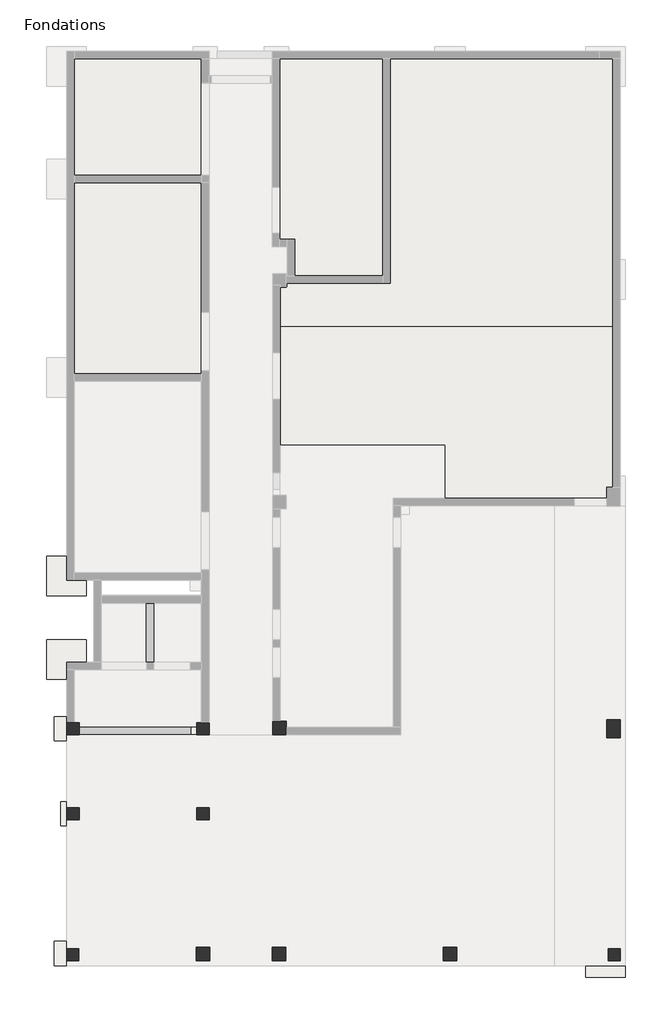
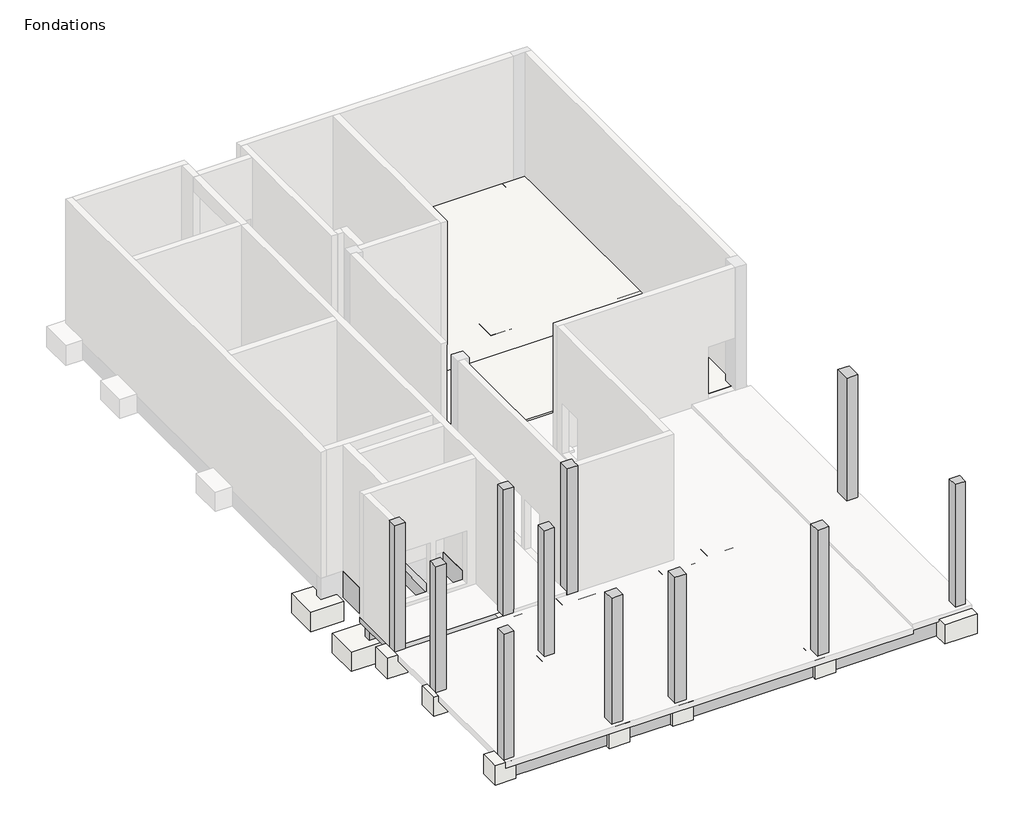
# One storey, part 2 of 3: 21 slabs, 16 beams, 11 columns.
"""IFC4 building model written with IfcOpenShell, lengths in millimetres."""

from ifc_helpers import new_model, si_unit, frame, origin, place, context, project, spatial, polyline, outline, extrude, faceted_brep, transform, mapped, element, save
from components import m_base_rectangulaire_80_x_80_x_80_cm_704a9384

model = new_model("IFC4")

# Units and contexts
model_context = context("Model", 3, world=origin())
ifc_project = project(units=[si_unit("LENGTHUNIT", "METRE", prefix="MILLI")], contexts=[model_context])

# Site, building, storey
site = spatial("IfcSite", under=ifc_project)
building = spatial("IfcBuilding", under=site)
storey = spatial("IfcBuildingStorey", under=building, Name="Fondations", Elevation=-160.0)

# Beams
placement = place(None, origin())
element("IfcBeam", 1, ObjectType="Béton - Poutre rectangulaire : LG 20 x 50 cm", at=placement, inside=storey, context=model_context, shape_type="Brep", body=[
    faceted_brep([(-14262.7042431, -1485.1222782, -160.0), (-14262.7042431, -3275.1222782, -160.0), (-14262.7042431, -3275.1222782, -360.0), (-14262.7042431, -1485.1222782, -360.0), (-14462.7042431, -3275.1222782, -360.0), (-14462.7042431, -1485.1222782, -360.0), (-14462.7042431, -3275.1222782, -160.0), (-14462.7042431, -1735.1222782, -160.0), (-14462.7042431, -1485.1222782, -160.0)], [[[0, 1, 2, 3]], [[2, 4, 5, 3]], [[4, 6, 7, 8, 5]], [[2, 1, 6, 4]], [[3, 5, 8, 0]], [[0, 8, 7, 6, 1]]]),
])
element("IfcBeam", 2, ObjectType="Béton - Poutre rectangulaire : LG 20 x 94 cm", at=placement, inside=storey, context=model_context, shape_type="Brep", body=[
    faceted_brep([(-9582.7042431, -3875.1222782, -960.0), (-10032.7042431, -3875.1222782, -960.0), (-10032.7042431, -3875.1222782, -1100.0), (-7357.7042431, -3875.1222782, -1100.0), (-7357.7042431, -3875.1222782, -960.0), (-8107.7042431, -3875.1222782, -960.0), (-8107.7042431, -3875.1222782, -405.0), (-8107.7042431, -3875.1222782, -215.0), (-9582.7042431, -3875.1222782, -215.0), (-9582.7042431, -3875.1222782, -405.0), (-10032.7042431, -3675.1222782, -1100.0), (-7357.7042431, -3675.1222782, -1100.0), (-10032.7042431, -3675.1222782, -960.0), (-9582.7042431, -3675.1222782, -960.0), (-9582.7042431, -3675.1222782, -215.0), (-8107.7042431, -3675.1222782, -215.0), (-8107.7042431, -3675.1222782, -960.0), (-7357.7042431, -3675.1222782, -960.0)], [[[0, 1, 2, 3, 4, 5, 6, 7, 8, 9]], [[2, 10, 11, 3]], [[12, 13, 14, 15, 16, 17, 11, 10]], [[0, 13, 12, 1]], [[13, 0, 9, 8, 14]], [[16, 5, 4, 17]], [[5, 16, 15, 7, 6]], [[10, 2, 1, 12]], [[3, 11, 17, 4]], [[8, 7, 15, 14]]]),
])
element("IfcBeam", 3, ObjectType="Béton - Poutre rectangulaire : LG 25 x 109 cm", at=placement, inside=storey, context=model_context, shape_type="Brep", body=[
    faceted_brep([(-14250.0042431, -1735.1222782, -160.0), (-14250.0042431, -1485.1222782, -160.0), (-14250.0042431, -1485.1222782, -1050.0), (-14250.0042431, -1735.1222782, -1050.0), (-10032.7042431, -1735.1222782, -160.0), (-9782.7042431, -1735.1222782, -160.0), (-9782.7042431, -1610.1222782, -160.0), (-10032.7042431, -1610.1222782, -160.0), (-10032.7042431, -1485.1222782, -160.0), (-13332.7042431, -1485.1222782, -160.0), (-13582.7042431, -1485.1222782, -160.0), (-13832.7042431, -1485.1222782, -1050.0), (-10032.7042431, -1485.1222782, -1050.0), (-10307.7042431, -1485.1222782, -1050.0), (-10307.7042431, -1485.1222782, -1250.0), (-13332.7042431, -1485.1222782, -1250.0), (-13582.7042431, -1485.1222782, -1250.0), (-13832.7042431, -1485.1222782, -1250.0), (-10307.7042431, -1735.1222782, -1250.0), (-13832.7042431, -1735.1222782, -1250.0), (-13832.7042431, -1735.1222782, -1050.0), (-10307.7042431, -1735.1222782, -1050.0), (-9780.3113348, -1735.1222782, -1050.0), (-9780.3113348, -1735.1222782, -215.0), (-9782.7042431, -1735.1222782, -215.0), (-10032.7042431, -1610.1222782, -1050.0), (-9782.7042431, -1610.1222782, -1050.0), (-9780.3113348, -1610.1222782, -1050.0), (-9780.3113348, -1610.1222782, -215.0), (-9782.7042431, -1610.1222782, -215.0)], [[[0, 1, 2, 3]], [[1, 0, 4, 5, 6, 7, 8, 9, 10]], [[11, 2, 1, 10, 9, 8, 12, 13, 14, 15, 16, 17]], [[14, 18, 19, 17, 16, 15]], [[3, 20, 19, 18, 21, 22, 23, 24, 5, 4, 0]], [[8, 7, 25, 12]], [[2, 11, 20, 3]], [[11, 17, 19, 20]], [[13, 12, 25, 26, 27, 22, 21]], [[14, 13, 21, 18]], [[22, 27, 28, 23]], [[25, 7, 6, 29, 28, 27, 26]], [[29, 24, 23, 28]], [[24, 29, 6, 5]]]),
])
element("IfcBeam", 4, ObjectType="Béton - Poutre rectangulaire : LG 25 x 50 cm", at=placement, inside=storey, context=model_context, shape_type="Brep", body=[
    faceted_brep([(-9782.7042431, -3275.1222782, -160.0), (-9782.7042431, -3275.1222782, -360.0), (-9782.7042431, -1735.1222782, -360.0), (-9782.7042431, -1735.1222782, -215.0), (-9782.7042431, -1735.1222782, -160.0), (-10032.7042431, -3275.1222782, -360.0), (-10032.7042431, -1735.1222782, -360.0), (-10032.7042431, -3275.1222782, -160.0), (-10032.7042431, -1735.1222782, -160.0), (-10032.7042431, -1735.1222782, -355.0)], [[[0, 1, 2, 3, 4]], [[1, 5, 6, 2]], [[5, 7, 8, 9, 6]], [[1, 0, 7, 5]], [[4, 3, 2, 6, 9, 8]], [[0, 4, 8, 7]]]),
])
element("IfcBeam", 5, ObjectType="Béton - Poutre rectangulaire : LG 25 x 80 cm", at=placement, inside=storey, context=model_context, shape_type="SweptSolid", body=[
    extrude(outline(polyline([(-960.0, -1452.7042431), (-960.0, 2617.2957569), (-265.0, 2617.2957569), (-265.0, 1602.2957569), (-405.0, 1602.2957569), (-405.0, -1452.7042431), (-960.0, -1452.7042431)])), frame((0.0, -11315.1222782, 0.0), z_axis=(0.0, 1.0, 0.0), x_axis=(0.0, 0.0, 1.0)), (0.0, 0.0, 1.0), 250.0),
])
element("IfcBeam", 6, ObjectType="Béton - Poutre rectangulaire : LG 25 x 80 cm", at=placement, inside=storey, context=model_context, shape_type="SweptSolid", body=[
    extrude(outline(polyline([(-7882.7042431, -11065.1222782), (-7882.7042431, -11315.1222782), (-9582.7042431, -11315.1222782), (-9582.7042431, -11065.1222782), (-7882.7042431, -11065.1222782)])), frame((0.0, 0.0, -960.0), z_axis=(0.0, 0.0, 1.0), x_axis=(1.0, 0.0, 0.0)), (0.0, 0.0, 1.0), 555.0),
])
element("IfcBeam", 7, ObjectType="Béton - Poutre rectangulaire : LG 25 x 80 cm", at=placement, inside=storey, context=model_context, shape_type="SweptSolid", body=[
    extrude(outline(polyline([(-7082.7042431, -11315.1222782), (-7082.7042431, -11065.1222782), (-2252.7042431, -11065.1222782), (-2252.7042431, -11315.1222782), (-7082.7042431, -11315.1222782)])), frame((0.0, 0.0, -960.0), z_axis=(0.0, 0.0, 1.0), x_axis=(1.0, 0.0, 0.0)), (0.0, 0.0, 1.0), 555.0),
])
element("IfcBeam", 8, ObjectType="Béton - Poutre rectangulaire : LG 25 x 80 cm", at=placement, inside=storey, context=model_context, shape_type="SweptSolid", body=[
    extrude(outline(polyline([(3757.2957569, -10565.1222782), (3507.2957569, -10565.1222782), (3507.2957569, -4325.1222782), (3757.2957569, -4325.1222782), (3757.2957569, -10565.1222782)])), frame((0.0, 0.0, -960.0), z_axis=(0.0, 0.0, 1.0), x_axis=(1.0, 0.0, 0.0)), (0.0, 0.0, 1.0), 695.0),
])
element("IfcBeam", 9, ObjectType="Béton - Poutre rectangulaire : LG 25 x 80 cm", at=placement, inside=storey, context=model_context, shape_type="SweptSolid", body=[
    extrude(outline(polyline([(-14067.7042431, -11315.1222782), (-14067.7042431, -11065.1222782), (-10382.7042431, -11065.1222782), (-10382.7042431, -11315.1222782), (-14067.7042431, -11315.1222782)])), frame((0.0, 0.0, -960.0), z_axis=(0.0, 0.0, 1.0), x_axis=(1.0, 0.0, 0.0)), (0.0, 0.0, 1.0), 555.0),
])
element("IfcBeam", 10, ObjectType="Béton - Poutre rectangulaire : LG 25 x 80 cm", at=placement, inside=storey, context=model_context, shape_type="Brep", body=[
    faceted_brep([(-14057.7042431, -3625.1222782, -160.0), (-14057.7042431, -3625.1222782, -960.0), (-14057.7042431, -3875.1222782, -960.0), (-14057.7042431, -3875.1222782, -405.0), (-14057.7042431, -3875.1222782, -160.0), (-10382.7042431, -3875.1222782, -160.0), (-10382.7042431, -3625.1222782, -160.0), (-10382.7042431, -3875.1222782, -960.0), (-10382.7042431, -3875.1222782, -405.0), (-10382.7042431, -3625.1222782, -960.0)], [[[0, 1, 2, 3, 4]], [[0, 4, 5, 6]], [[5, 4, 3, 2, 7, 8]], [[2, 1, 9, 7]], [[1, 0, 6, 9]], [[6, 5, 8, 7, 9]]]),
])
element("IfcBeam", 11, ObjectType="Béton - Poutre rectangulaire : LG 25 x 80 cm", at=placement, inside=storey, context=model_context, shape_type="SweptSolid", body=[
    extrude(outline(polyline([(-2352.7042431, -3625.1222782), (-2352.7042431, -3875.1222782), (-2937.7042431, -3875.1222782), (-2937.7042431, -3625.1222782), (-2352.7042431, -3625.1222782)])), frame((0.0, 0.0, -960.0), z_axis=(0.0, 0.0, 1.0), x_axis=(1.0, 0.0, 0.0)), (0.0, 0.0, 1.0), 555.0),
])
element("IfcBeam", 12, ObjectType="Béton - Poutre rectangulaire : LG 30 x 80 cm", at=placement, inside=storey, context=model_context, shape_type="SweptSolid", body=[
    extrude(outline(polyline([(-1702.7042431, -10675.1222782), (-2002.7042431, -10675.1222782), (-2002.7042431, -4275.1222782), (-1702.7042431, -4275.1222782), (-1702.7042431, -10675.1222782)])), frame((0.0, 0.0, -960.0), z_axis=(0.0, 0.0, 1.0), x_axis=(1.0, 0.0, 0.0)), (0.0, 0.0, 1.0), 555.0),
])
element("IfcBeam", 13, ObjectType="Béton - Poutre rectangulaire : TPV 25 x 123 cm", at=placement, inside=storey, context=model_context, shape_type="Brep", body=[
    faceted_brep([(-9782.7042431, 859.8777218, -1250.0), (-9782.7042431, 859.8777218, -1050.0), (-9782.7042431, 1204.8777218, -1050.0), (-9782.7042431, 1204.8777218, -160.0), (-9782.7042431, -1610.1222782, -160.0), (-9782.7042431, -1610.1222782, -215.0), (-9782.7042431, -1610.1222782, -1050.0), (-9782.7042431, -1250.1222782, -1050.0), (-9782.7042431, -1250.1222782, -1250.0), (-10032.7042431, -1250.1222782, -1250.0), (-10032.7042431, 454.8777218, -1250.0), (-10032.7042431, 514.8777218, -1250.0), (-10032.7042431, 714.8777218, -1250.0), (-10032.7042431, 859.8777218, -1250.0), (-10032.7042431, 859.8777218, -1050.0), (-10032.7042431, -1250.1222782, -1050.0), (-10032.7042431, -1485.1222782, -1050.0), (-10032.7042431, -1610.1222782, -1050.0), (-10032.7042431, -1610.1222782, -160.0), (-10032.7042431, -1485.1222782, -160.0), (-10032.7042431, 514.8777218, -160.0), (-10032.7042431, 704.8777218, -160.0), (-10032.7042431, 1204.8777218, -160.0), (-10032.7042431, 1204.8777218, -1050.0)], [[[0, 1, 2, 3, 4, 5, 6, 7, 8]], [[8, 9, 10, 11, 12, 13, 0]], [[14, 13, 12, 11, 10, 9, 15, 16, 17, 18, 19, 20, 21, 22, 23]], [[7, 6, 17, 16, 15]], [[8, 7, 15, 9]], [[1, 14, 23, 2]], [[1, 0, 13, 14]], [[17, 6, 5, 4, 18]], [[2, 23, 22, 3]], [[4, 3, 22, 21, 20, 19, 18]]]),
])
element("IfcBeam", 14, ObjectType="Béton - Poutre rectangulaire : TPV 25 x 125 cm", at=placement, inside=storey, context=model_context, shape_type="Brep", body=[
    faceted_brep([(-13582.7042431, 1204.8777218, -1250.0), (-13582.7042431, -1485.1222782, -1250.0), (-13582.7042431, -1485.1222782, -160.0), (-13582.7042431, 1204.8777218, -160.0), (-13332.7042431, 1204.8777218, -1250.0), (-13332.7042431, 714.8777218, -1250.0), (-13332.7042431, 514.8777218, -1250.0), (-13332.7042431, 454.8777218, -1250.0), (-13332.7042431, -1485.1222782, -1250.0), (-13332.7042431, 1204.8777218, -160.0), (-13332.7042431, 704.8777218, -160.0), (-13332.7042431, 514.8777218, -160.0), (-13332.7042431, -1485.1222782, -160.0), (-13332.7042431, -1485.1222782, -1050.0)], [[[0, 1, 2, 3]], [[0, 4, 5, 6, 7, 8, 1]], [[8, 7, 6, 5, 4, 9, 10, 11, 12, 13]], [[4, 0, 3, 9]], [[1, 8, 13, 12, 2]], [[3, 2, 12, 11, 10, 9]]]),
])
element("IfcBeam", 15, ObjectType="Béton - Poutre rectangulaire : TPV 25 x 55 cm", at=placement, inside=storey, context=model_context, shape_type="Brep", body=[
    faceted_brep([(-11857.7042431, -1485.1222782, 0.0), (-11832.7042431, -1485.1222782, 0.0), (-11607.7042431, -1485.1222782, 0.0), (-11607.7042431, 454.8777218, 0.0), (-11857.7042431, 454.8777218, 0.0), (-11607.7042431, -1485.1222782, -550.0), (-11607.7042431, 514.8777218, -550.0), (-11607.7042431, 514.8777218, -160.0), (-11607.7042431, 454.8777218, -160.0), (-11857.7042431, -1485.1222782, -550.0), (-11857.7042431, 514.8777218, -550.0), (-11857.7042431, 454.8777218, -160.0), (-11857.7042431, 514.8777218, -160.0)], [[[0, 1, 2, 3, 4]], [[5, 6, 7, 8, 3, 2]], [[5, 9, 10, 6]], [[10, 9, 0, 4, 11, 12]], [[9, 5, 2, 1, 0]], [[6, 10, 12, 7]], [[8, 11, 4, 3]], [[11, 8, 7, 12]]]),
])
element("IfcBeam", 16, ObjectType="Béton - Poutre rectangulaire : TPV 25 x 80 cm", at=placement, inside=storey, context=model_context, shape_type="Brep", body=[
    faceted_brep([(-4237.7042431, -3875.1222782, -160.0), (-6807.7042431, -3875.1222782, -160.0), (-6807.7042431, -3875.1222782, -405.0), (-6807.7042431, -3875.1222782, -820.0), (-4237.7042431, -3875.1222782, -820.0), (-4237.7042431, -3875.1222782, -405.0), (-6807.7042431, -3625.1222782, -820.0), (-4237.7042431, -3625.1222782, -820.0), (-6807.7042431, -3625.1222782, -160.0), (-4237.7042431, -3625.1222782, -160.0)], [[[0, 1, 2, 3, 4, 5]], [[3, 6, 7, 4]], [[6, 8, 9, 7]], [[6, 3, 2, 1, 8]], [[4, 7, 9, 0, 5]], [[1, 0, 9, 8]]]),
])

# Columns
element("IfcColumn", 17, ObjectType="Béton - Rectangulaire - Poteau : 40 x 40 cm", at=placement, inside=storey, context=model_context, shape_type="SweptSolid", body=[
    extrude(outline(polyline([(3357.2957569, -10915.1222782), (3757.2957569, -10915.1222782), (3757.2957569, -11315.1222782), (3357.2957569, -11315.1222782), (3357.2957569, -10915.1222782)])), frame((0.0, 0.0, -15.0), z_axis=(0.0, 0.0, 1.0), x_axis=(1.0, 0.0, 0.0)), (0.0, 0.0, 1.0), 5120.0),
])
element("IfcColumn", 18, ObjectType="Béton - Rectangulaire - Poteau : 40 x 40 cm", at=placement, inside=storey, context=model_context, shape_type="SweptSolid", body=[
    extrude(outline(polyline([(-10182.7042431, -6275.1222782), (-9782.7042431, -6275.1222782), (-9782.7042431, -6675.1222782), (-10182.7042431, -6675.1222782), (-10182.7042431, -6275.1222782)])), frame((0.0, 0.0, -155.0), z_axis=(0.0, 0.0, 1.0), x_axis=(1.0, 0.0, 0.0)), (0.0, 0.0, 1.0), 5260.0),
])
element("IfcColumn", 19, ObjectType="Béton - Rectangulaire - Poteau : 40 x 40 cm", at=placement, inside=storey, context=model_context, shape_type="Brep", body=[
    faceted_brep([(-14062.7042431, -6275.1222782, 5105.0), (-14462.7042431, -6275.1222782, 5105.0), (-14462.7042431, -6675.1222782, 5105.0), (-14062.7042431, -6675.1222782, 5105.0), (-14062.7042431, -6275.1222782, -160.0), (-14062.7042431, -6675.1222782, -160.0), (-14462.7042431, -6675.1222782, -160.0), (-14462.7042431, -6275.1222782, -160.0), (-14062.7042431, -6275.1222782, -155.0), (-14462.7042431, -6275.1222782, -155.0), (-14462.7042431, -6675.1222782, -155.0), (-14062.7042431, -6675.1222782, -155.0)], [[[0, 1, 2, 3]], [[4, 5, 6, 7]], [[1, 0, 8, 4, 7, 9]], [[2, 1, 9, 7, 6, 10]], [[3, 2, 10, 6, 5, 11]], [[0, 3, 11, 5, 4, 8]]]),
])
element("IfcColumn", 20, ObjectType="Béton - Rectangulaire - Poteau : 40 x 40 cm", at=placement, inside=storey, context=model_context, shape_type="Brep", body=[
    faceted_brep([(-14072.7042431, -10915.1222782, 5105.0), (-14472.7042431, -10915.1222782, 5105.0), (-14472.7042431, -11315.1222782, 5105.0), (-14072.7042431, -11315.1222782, 5105.0), (-14072.7042431, -10915.1222782, -160.0), (-14072.7042431, -11315.1222782, -160.0), (-14472.7042431, -11315.1222782, -160.0), (-14472.7042431, -10915.1222782, -160.0), (-14072.7042431, -10915.1222782, -155.0), (-14472.7042431, -10915.1222782, -155.0), (-14472.7042431, -11315.1222782, -155.0), (-14072.7042431, -11315.1222782, -155.0)], [[[0, 1, 2, 3]], [[4, 5, 6, 7]], [[1, 0, 8, 4, 7, 9]], [[2, 1, 9, 7, 6, 10]], [[3, 2, 10, 6, 5, 11]], [[0, 3, 11, 5, 4, 8]]]),
])
element("IfcColumn", 21, ObjectType="Béton - Rectangulaire - Poteau : 40 x 40 cm", at=placement, inside=storey, context=model_context, shape_type="Brep", body=[
    faceted_brep([(-14062.7042431, -3475.1222782, 5105.0), (-14462.7042431, -3475.1222782, 5105.0), (-14462.7042431, -3875.1222782, 5105.0), (-14062.7042431, -3875.1222782, 5105.0), (-14062.7042431, -3875.1222782, -160.0), (-14462.7042431, -3875.1222782, -160.0), (-14462.7042431, -3475.1222782, -160.0), (-14062.7042431, -3475.1222782, -160.0), (-14062.7042431, -3615.1222782, -160.0), (-14062.7042431, -3475.1222782, -155.0), (-14462.7042431, -3875.1222782, -155.0), (-14062.7042431, -3875.1222782, -155.0)], [[[0, 1, 2, 3]], [[4, 5, 6, 7, 8]], [[1, 0, 9, 7, 6]], [[2, 1, 6, 5, 10]], [[3, 2, 10, 5, 4, 11]], [[0, 3, 11, 4, 8, 7, 9]]]),
])
element("IfcColumn", 22, ObjectType="Béton - Rectangulaire - Poteau : 40 x 40 cm", at=placement, inside=storey, context=model_context, shape_type="Brep", body=[
    faceted_brep([(-9782.7042431, -3475.1222782, 5105.0), (-10032.7042431, -3475.1222782, 5105.0), (-10182.7042431, -3475.1222782, 5105.0), (-10182.7042431, -3875.1222782, 5105.0), (-9782.7042431, -3875.1222782, 5105.0), (-9782.7042431, -3475.1222782, -160.0), (-9782.7042431, -3875.1222782, -160.0), (-10182.7042431, -3875.1222782, -160.0), (-10182.7042431, -3615.1222782, -160.0), (-10182.7042431, -3475.1222782, -160.0), (-10032.7042431, -3475.1222782, -160.0), (-10182.7042431, -3475.1222782, -155.0), (-10182.7042431, -3875.1222782, -155.0), (-9782.7042431, -3875.1222782, -155.0), (-9782.7042431, -3875.1222782, -15.0)], [[[0, 1, 2, 3, 4]], [[5, 6, 7, 8, 9, 10]], [[2, 1, 0, 5, 10, 9, 11]], [[3, 2, 11, 9, 8, 7, 12]], [[4, 3, 12, 7, 6, 13, 14]], [[0, 4, 14, 13, 6, 5]]]),
])
element("IfcColumn", 23, ObjectType="Béton - Rectangulaire - Poteau : 45 x 45 cm", at=placement, inside=storey, context=model_context, shape_type="SweptSolid", body=[
    extrude(outline(polyline([(-2077.7042431, -10865.1222782), (-1627.7042431, -10865.1222782), (-1627.7042431, -11315.1222782), (-2077.7042431, -11315.1222782), (-2077.7042431, -10865.1222782)])), frame((0.0, 0.0, -155.0), z_axis=(0.0, 0.0, 1.0), x_axis=(1.0, 0.0, 0.0)), (0.0, 0.0, 1.0), 5260.0),
])
element("IfcColumn", 24, ObjectType="Béton - Rectangulaire - Poteau : 45 x 45 cm", at=placement, inside=storey, context=model_context, shape_type="SweptSolid", body=[
    extrude(outline(polyline([(-7707.7042431, -10865.1222782), (-7257.7042431, -10865.1222782), (-7257.7042431, -11315.1222782), (-7707.7042431, -11315.1222782), (-7707.7042431, -10865.1222782)])), frame((0.0, 0.0, -155.0), z_axis=(0.0, 0.0, 1.0), x_axis=(1.0, 0.0, 0.0)), (0.0, 0.0, 1.0), 5260.0),
])
element("IfcColumn", 25, ObjectType="Béton - Rectangulaire - Poteau : 45 x 45 cm", at=placement, inside=storey, context=model_context, shape_type="SweptSolid", body=[
    extrude(outline(polyline([(-10207.7042431, -10865.1222782), (-9757.7042431, -10865.1222782), (-9757.7042431, -11315.1222782), (-10207.7042431, -11315.1222782), (-10207.7042431, -10865.1222782)])), frame((0.0, 0.0, -155.0), z_axis=(0.0, 0.0, 1.0), x_axis=(1.0, 0.0, 0.0)), (0.0, 0.0, 1.0), 5260.0),
])
element("IfcColumn", 26, ObjectType="Béton - Rectangulaire - Poteau : 45 x 45 cm", at=placement, inside=storey, context=model_context, shape_type="Brep", body=[
    faceted_brep([(-7232.7042431, -3425.1222782, 5105.0), (-7432.7042431, -3425.1222782, 5105.0), (-7682.7042431, -3425.1222782, 5105.0), (-7682.7042431, -3875.1222782, 5105.0), (-7232.7042431, -3875.1222782, 5105.0), (-7232.7042431, -3625.1222782, 5105.0), (-7232.7042431, -3875.1222782, -160.0), (-7682.7042431, -3875.1222782, -160.0), (-7682.7042431, -3425.1222782, -160.0), (-7432.7042431, -3425.1222782, -160.0), (-7232.7042431, -3425.1222782, -160.0), (-7232.7042431, -3625.1222782, -160.0), (-7232.7042431, -3425.1222782, -70.0), (-7682.7042431, -3425.1222782, -15.0), (-7682.7042431, -3875.1222782, -155.0), (-7682.7042431, -3875.1222782, -15.0), (-7232.7042431, -3875.1222782, -155.0)], [[[0, 1, 2, 3, 4, 5]], [[6, 7, 8, 9, 10, 11]], [[2, 1, 0, 12, 10, 9, 8, 13]], [[3, 2, 13, 8, 7, 14, 15]], [[4, 3, 15, 14, 7, 6, 16]], [[0, 5, 4, 16, 6, 11, 10, 12]]]),
])
element("IfcColumn", 27, ObjectType="Béton - Rectangulaire - Poteau : 45 x 60 cm", at=placement, inside=storey, context=model_context, shape_type="SweptSolid", body=[
    extrude(outline(polyline([(3307.2957569, -3375.1222782), (3757.2957569, -3375.1222782), (3757.2957569, -3975.1222782), (3307.2957569, -3975.1222782), (3307.2957569, -3375.1222782)])), frame((0.0, 0.0, -15.0), z_axis=(0.0, 0.0, 1.0), x_axis=(1.0, 0.0, 0.0)), (0.0, 0.0, 1.0), 5120.0),
])

# Slabs
element("IfcSlab", 28, ObjectType="Générique  25 cm", at=placement, inside=storey, context=model_context, shape_type="Brep", body=[
    faceted_brep([(3507.2957569, 18374.8777218, -320.0), (3507.2957569, 9559.8777218, -320.0), (-1702.7042431, 9559.8777218, -320.0), (-2002.7042431, 9559.8777218, -320.0), (-7357.7042431, 9559.8777218, -320.0), (-7432.7042431, 9559.8777218, -320.0), (-7432.7042431, 10434.8777218, -320.0), (-7432.7042431, 10859.8777218, -320.0), (-7207.7042431, 10859.8777218, -320.0), (-7207.7042431, 10984.8777218, -320.0), (-6807.7042431, 10984.8777218, -320.0), (-4067.7042431, 10984.8777218, -320.0), (-4067.7042431, 11259.8777218, -320.0), (-4067.7042431, 18374.8777218, -320.0), (3507.2957569, 18374.8777218, -70.0), (-4067.7042431, 18374.8777218, -70.0), (-4067.7042431, 11234.8777218, -70.0), (-4067.7042431, 10984.8777218, -70.0), (-6807.7042431, 10984.8777218, -70.0), (-7207.7042431, 10984.8777218, -70.0), (-7207.7042431, 10859.8777218, -70.0), (-7432.7042431, 10859.8777218, -70.0), (-7432.7042431, 9559.8777218, -70.0), (3507.2957569, 9559.8777218, -70.0), (-7432.7042431, 9559.8777218, -250.0)], [[[0, 1, 2, 3, 4, 5, 6, 7, 8, 9, 10, 11, 12, 13]], [[14, 15, 16, 17, 18, 19, 20, 21, 22, 23]], [[1, 0, 14, 23]], [[5, 4, 3, 2, 1, 23, 22, 24]], [[7, 6, 5, 24, 22, 21]], [[8, 7, 21, 20]], [[9, 8, 20, 19]], [[11, 10, 9, 19, 18, 17]], [[13, 12, 11, 17, 16, 15]], [[0, 13, 15, 14]]]),
])
element("IfcSlab", 29, ObjectType="Générique  25 cm", at=placement, inside=storey, context=model_context, shape_type="Brep", body=[
    faceted_brep([(3507.2957569, 9559.8777218, -250.0), (3507.2957569, 4274.8777218, -250.0), (3307.2957569, 4274.8777218, -250.0), (3307.2957569, 3909.8777218, -250.0), (2617.2957569, 3909.8777218, -250.0), (-1352.7042431, 3909.8777218, -250.0), (-2002.7042431, 3909.8777218, -250.0), (-2002.7042431, 4284.8777218, -250.0), (-2002.7042431, 5679.8777218, -250.0), (-7357.7042431, 5679.8777218, -250.0), (-7432.7042431, 5679.8777218, -250.0), (-7432.7042431, 9559.8777218, -250.0), (-7357.7042431, 9559.8777218, -250.0), (-2002.7042431, 9559.8777218, -250.0), (-1702.7042431, 9559.8777218, -250.0), (3507.2957569, 9559.8777218, 0.0), (-7432.7042431, 9559.8777218, 0.0), (-7432.7042431, 5679.8777218, 0.0), (-2002.7042431, 5679.8777218, 0.0), (-2002.7042431, 3909.8777218, 0.0), (3307.2957569, 3909.8777218, 0.0), (3307.2957569, 4274.8777218, 0.0), (3507.2957569, 4274.8777218, 0.0), (3307.2957569, 4274.8777218, -160.0)], [[[0, 1, 2, 3, 4, 5, 6, 7, 8, 9, 10, 11, 12, 13, 14]], [[15, 16, 17, 18, 19, 20, 21, 22]], [[1, 0, 15, 22]], [[2, 1, 22, 21, 23]], [[3, 2, 23, 21, 20]], [[6, 5, 4, 3, 20, 19]], [[8, 7, 6, 19, 18]], [[10, 9, 8, 18, 17]], [[11, 10, 17, 16]], [[0, 14, 13, 12, 11, 16, 15]]]),
])
element("IfcSlab", 30, ObjectType="Générique  20 cm", at=placement, inside=storey, context=model_context, shape_type="Brep", body=[
    faceted_brep([(-4067.7042431, 18374.8777218, -200.0), (-4067.7042431, 11259.8777218, -200.0), (-4067.7042431, 11234.8777218, -200.0), (-6807.7042431, 11234.8777218, -200.0), (-6957.7042431, 11234.8777218, -200.0), (-6957.7042431, 12434.8777218, -200.0), (-7257.7042431, 12434.8777218, -200.0), (-7457.7042431, 12434.8777218, -200.0), (-7457.7042431, 17984.8777218, -200.0), (-7457.7042431, 18374.8777218, -200.0), (-4067.7042431, 18374.8777218, 0.0), (-7457.7042431, 18374.8777218, 0.0), (-7457.7042431, 12434.8777218, 0.0), (-6957.7042431, 12434.8777218, 0.0), (-6957.7042431, 11234.8777218, 0.0), (-4067.7042431, 11234.8777218, 0.0), (-4067.7042431, 11234.8777218, -70.0), (-7457.7042431, 12434.8777218, -160.0)], [[[0, 1, 2, 3, 4, 5, 6, 7, 8, 9]], [[10, 11, 12, 13, 14, 15]], [[2, 1, 0, 10, 15, 16]], [[4, 3, 2, 16, 15, 14]], [[5, 4, 14, 13]], [[7, 6, 5, 13, 12, 17]], [[9, 8, 7, 17, 12, 11]], [[0, 9, 11, 10]]]),
])
element("IfcSlab", 31, ObjectType="Générique  20 cm", at=placement, inside=storey, context=model_context, shape_type="Brep", body=[
    faceted_brep([(-10032.7042431, 8014.8777218, -200.0), (-14212.7042431, 8014.8777218, -200.0), (-14212.7042431, 14294.8777218, -200.0), (-10032.7042431, 14294.8777218, -200.0), (-10032.7042431, 13919.8777218, -200.0), (-10032.7042431, 8389.8777218, -200.0), (-10032.7042431, 8014.8777218, 0.0), (-10032.7042431, 14294.8777218, 0.0), (-14212.7042431, 14294.8777218, 0.0), (-14212.7042431, 8014.8777218, 0.0), (-13827.9824135, 8014.8777218, 0.0), (-10407.9824135, 8014.8777218, 0.0)], [[[0, 1, 2, 3, 4, 5]], [[6, 7, 8, 9, 10, 11]], [[1, 0, 6, 11, 10, 9]], [[2, 1, 9, 8]], [[3, 2, 8, 7]], [[0, 5, 4, 3, 7, 6]]]),
])
element("IfcSlab", 32, ObjectType="Générique  20 cm", at=placement, inside=storey, context=model_context, shape_type="SweptSolid", body=[
    extrude(outline(polyline([(-9782.7042431, 14544.8777218), (-14212.7042431, 14544.8777218), (-14212.7042431, 18374.8777218), (-9782.7042431, 18374.8777218), (-9782.7042431, 14544.8777218)])), frame((0.0, 0.0, -215.0), z_axis=(0.0, 0.0, 1.0), x_axis=(1.0, 0.0, 0.0)), (0.0, 0.0, 1.0), 200.0),
])
element("IfcSlab", 33, ObjectType="M_Base-Rectangulaire : 100 x 100 x 80 cm", at=placement, inside=storey, context=model_context, shape_type="Brep", body=[
    faceted_brep([(-1352.7042431, -3275.1222782, -160.0), (-2352.7042431, -3275.1222782, -160.0), (-2352.7042431, -4275.1222782, -160.0), (-1352.7042431, -4275.1222782, -160.0), (-1352.7042431, -3275.1222782, -960.0), (-1352.7042431, -4275.1222782, -960.0), (-1702.7042431, -4275.1222782, -960.0), (-2002.7042431, -4275.1222782, -960.0), (-2352.7042431, -4275.1222782, -960.0), (-2352.7042431, -3875.1222782, -960.0), (-2352.7042431, -3625.1222782, -960.0), (-2352.7042431, -3275.1222782, -960.0), (-2002.7042431, -3275.1222782, -960.0), (-1702.7042431, -3275.1222782, -960.0)], [[[0, 1, 2, 3]], [[4, 5, 6, 7, 8, 9, 10, 11, 12, 13]], [[1, 0, 4, 13, 12, 11]], [[2, 1, 11, 10, 9, 8]], [[3, 2, 8, 7, 6, 5]], [[0, 3, 5, 4]]]),
])
element("IfcSlab", 34, ObjectType="M_Base-Rectangulaire : 130 x 130 x 80 cm", at=placement, inside=storey, context=model_context, shape_type="Brep", body=[
    faceted_brep([(3917.2957569, -10565.1222782, -160.0), (2617.2957569, -10565.1222782, -160.0), (2617.2957569, -11865.1222782, -160.0), (3917.2957569, -11865.1222782, -160.0), (3917.2957569, -10565.1222782, -960.0), (3917.2957569, -11865.1222782, -960.0), (2617.2957569, -11865.1222782, -960.0), (2617.2957569, -11315.1222782, -960.0), (2617.2957569, -11065.1222782, -960.0), (2617.2957569, -10565.1222782, -960.0), (3507.2957569, -10565.1222782, -960.0), (3757.2957569, -10565.1222782, -960.0)], [[[0, 1, 2, 3]], [[4, 5, 6, 7, 8, 9, 10, 11]], [[1, 0, 4, 11, 10, 9]], [[2, 1, 9, 8, 7, 6]], [[3, 2, 6, 5]], [[0, 3, 5, 4]]]),
])
element("IfcSlab", 35, ObjectType="M_Base-Rectangulaire : 130 x 130 x 80 cm", at=placement, inside=storey, context=model_context, shape_type="Brep", body=[
    faceted_brep([(3917.2957569, -3025.1222782, -160.0), (2617.2957569, -3025.1222782, -160.0), (2617.2957569, -4325.1222782, -160.0), (3917.2957569, -4325.1222782, -160.0), (3917.2957569, -3025.1222782, -960.0), (3917.2957569, -4325.1222782, -960.0), (3757.2957569, -4325.1222782, -960.0), (3507.2957569, -4325.1222782, -960.0), (2617.2957569, -4325.1222782, -960.0), (2617.2957569, -3025.1222782, -960.0), (3507.2957569, -3025.1222782, -960.0), (3757.2957569, -3025.1222782, -960.0)], [[[0, 1, 2, 3]], [[4, 5, 6, 7, 8, 9, 10, 11]], [[1, 0, 4, 11, 10, 9]], [[2, 1, 9, 8]], [[3, 2, 8, 7, 6, 5]], [[0, 3, 5, 4]]]),
])
element("IfcSlab", 36, ObjectType="M_Base-Rectangulaire : 130 x 130 x 80 cm", at=placement, inside=storey, context=model_context, shape_type="Brep", body=[
    faceted_brep([(-13832.7042431, 2009.8777218, -1050.0), (-15132.7042431, 2009.8777218, -1050.0), (-15132.7042431, 709.8777218, -1050.0), (-13832.7042431, 709.8777218, -1050.0), (-13832.7042431, 1204.8777218, -1050.0), (-13832.7042431, 1454.8777218, -1050.0), (-13832.7042431, 2009.8777218, -1850.0), (-13832.7042431, 709.8777218, -1850.0), (-15132.7042431, 709.8777218, -1850.0), (-15132.7042431, 2009.8777218, -1850.0)], [[[0, 1, 2, 3, 4, 5]], [[6, 7, 8, 9]], [[1, 0, 6, 9]], [[2, 1, 9, 8]], [[3, 2, 8, 7]], [[0, 5, 4, 3, 7, 6]]]),
])
element("IfcSlab", 37, ObjectType="M_Base-Rectangulaire : 130 x 130 x 80 cm", at=placement, inside=storey, context=model_context, shape_type="Brep", body=[
    faceted_brep([(-13832.7042431, -740.1222782, -1050.0), (-15132.7042431, -740.1222782, -1050.0), (-15132.7042431, -2040.1222782, -1050.0), (-13832.7042431, -2040.1222782, -1050.0), (-13832.7042431, -1735.1222782, -1050.0), (-13832.7042431, -1485.1222782, -1050.0), (-13832.7042431, -740.1222782, -1850.0), (-13832.7042431, -2040.1222782, -1850.0), (-15132.7042431, -2040.1222782, -1850.0), (-15132.7042431, -740.1222782, -1850.0)], [[[0, 1, 2, 3, 4, 5]], [[6, 7, 8, 9]], [[1, 0, 6, 9]], [[2, 1, 9, 8]], [[3, 2, 8, 7]], [[0, 5, 4, 3, 7, 6]]]),
])
element("IfcSlab", 38, ObjectType="M_Base-Rectangulaire : 130 x 130 x 80 cm", at=placement, inside=storey, context=model_context, shape_type="Brep", body=[
    faceted_brep([(-6807.7042431, -3000.1222782, -160.0), (-7432.7042431, -3000.1222782, -160.0), (-7682.7042431, -3000.1222782, -160.0), (-8107.7042431, -3000.1222782, -160.0), (-8107.7042431, -4300.1222782, -160.0), (-6807.7042431, -4300.1222782, -160.0), (-6807.7042431, -3875.1222782, -160.0), (-6807.7042431, -3625.1222782, -160.0), (-6807.7042431, -3000.1222782, -960.0), (-6807.7042431, -4300.1222782, -960.0), (-8107.7042431, -4300.1222782, -960.0), (-8107.7042431, -3875.1222782, -960.0), (-8107.7042431, -3675.1222782, -960.0), (-8107.7042431, -3000.1222782, -960.0)], [[[0, 1, 2, 3, 4, 5, 6, 7]], [[8, 9, 10, 11, 12, 13]], [[3, 2, 1, 0, 8, 13]], [[4, 3, 13, 12, 11, 10]], [[5, 4, 10, 9]], [[0, 7, 6, 5, 9, 8]]]),
])
element("IfcSlab", 39, ObjectType="M_Base-Rectangulaire : 130 x 130 x 85 cm", at=placement, inside=storey, context=model_context, shape_type="Brep", body=[
    faceted_brep([(-2937.7042431, -3125.1222782, -160.0), (-3462.7042431, -3125.1222782, -160.0), (-3712.7042431, -3125.1222782, -160.0), (-4237.7042431, -3125.1222782, -160.0), (-4237.7042431, -3625.1222782, -160.0), (-4237.7042431, -3875.1222782, -160.0), (-4237.7042431, -4425.1222782, -160.0), (-2937.7042431, -4425.1222782, -160.0), (-2937.7042431, -3125.1222782, -1010.0), (-2937.7042431, -4425.1222782, -1010.0), (-4237.7042431, -4425.1222782, -1010.0), (-4237.7042431, -3125.1222782, -1010.0)], [[[0, 1, 2, 3, 4, 5, 6, 7]], [[8, 9, 10, 11]], [[3, 2, 1, 0, 8, 11]], [[6, 5, 4, 3, 11, 10]], [[7, 6, 10, 9]], [[0, 7, 9, 8]]]),
])
element("IfcSlab", 40, ObjectType="M_Base-Rectangulaire : 80 x 80 x 80 cm", at=placement, inside=storey, context=model_context, shape_type="Brep", body=[
    faceted_brep([(-7082.7042431, -10675.1222782, -160.0), (-7882.7042431, -10675.1222782, -160.0), (-7882.7042431, -11475.1222782, -160.0), (-7082.7042431, -11475.1222782, -160.0), (-7082.7042431, -10675.1222782, -960.0), (-7082.7042431, -11065.1222782, -960.0), (-7082.7042431, -11315.1222782, -960.0), (-7082.7042431, -11475.1222782, -960.0), (-7882.7042431, -11475.1222782, -960.0), (-7882.7042431, -11315.1222782, -960.0), (-7882.7042431, -11065.1222782, -960.0), (-7882.7042431, -10675.1222782, -960.0)], [[[0, 1, 2, 3]], [[4, 5, 6, 7, 8, 9, 10, 11]], [[1, 0, 4, 11]], [[2, 1, 11, 10, 9, 8]], [[3, 2, 8, 7]], [[0, 3, 7, 6, 5, 4]]]),
])
element("IfcSlab", 41, ObjectType="M_Base-Rectangulaire : 80 x 80 x 80 cm", at=placement, inside=storey, context=model_context, shape_type="Brep", body=[
    faceted_brep([(-1452.7042431, -10675.1222782, -160.0), (-2252.7042431, -10675.1222782, -160.0), (-2252.7042431, -11475.1222782, -160.0), (-1452.7042431, -11475.1222782, -160.0), (-1452.7042431, -10675.1222782, -960.0), (-1452.7042431, -11065.1222782, -960.0), (-1452.7042431, -11315.1222782, -960.0), (-1452.7042431, -11475.1222782, -960.0), (-2252.7042431, -11475.1222782, -960.0), (-2252.7042431, -11315.1222782, -960.0), (-2252.7042431, -11065.1222782, -960.0), (-2252.7042431, -10675.1222782, -960.0), (-2002.7042431, -10675.1222782, -960.0), (-1702.7042431, -10675.1222782, -960.0)], [[[0, 1, 2, 3]], [[4, 5, 6, 7, 8, 9, 10, 11, 12, 13]], [[1, 0, 4, 13, 12, 11]], [[2, 1, 11, 10, 9, 8]], [[3, 2, 8, 7]], [[0, 3, 7, 6, 5, 4]]]),
])
element("IfcSlab", 42, ObjectType="M_Base-Rectangulaire : 80 x 80 x 80 cm", at=placement, inside=storey, context=model_context, shape_type="Brep", body=[
    faceted_brep([(-9582.7042431, -3275.1222782, -160.0), (-9782.7042431, -3275.1222782, -160.0), (-10032.7042431, -3275.1222782, -160.0), (-10382.7042431, -3275.1222782, -160.0), (-10382.7042431, -3625.1222782, -160.0), (-10382.7042431, -3875.1222782, -160.0), (-10382.7042431, -4075.1222782, -160.0), (-9582.7042431, -4075.1222782, -160.0), (-9582.7042431, -3275.1222782, -960.0), (-9582.7042431, -3675.1222782, -960.0), (-9582.7042431, -3875.1222782, -960.0), (-9582.7042431, -4075.1222782, -960.0), (-10382.7042431, -4075.1222782, -960.0), (-10382.7042431, -3875.1222782, -960.0), (-10382.7042431, -3625.1222782, -960.0), (-10382.7042431, -3275.1222782, -960.0)], [[[0, 1, 2, 3, 4, 5, 6, 7]], [[8, 9, 10, 11, 12, 13, 14, 15]], [[3, 2, 1, 0, 8, 15]], [[6, 5, 4, 3, 15, 14, 13, 12]], [[7, 6, 12, 11]], [[0, 7, 11, 10, 9, 8]]]),
])
element("IfcSlab", 43, ObjectType="M_Base-Rectangulaire : 80 x 80 x 80 cm", at=placement, inside=storey, context=model_context, shape_type="Brep", body=[
    faceted_brep([(-9507.7042431, -1250.1222782, -1050.0), (-9782.7042431, -1250.1222782, -1050.0), (-10032.7042431, -1250.1222782, -1050.0), (-10307.7042431, -1250.1222782, -1050.0), (-10307.7042431, -1485.1222782, -1050.0), (-10307.7042431, -1735.1222782, -1050.0), (-10307.7042431, -2050.1222782, -1050.0), (-9507.7042431, -2050.1222782, -1050.0), (-9507.7042431, -1250.1222782, -1850.0), (-9507.7042431, -2050.1222782, -1850.0), (-10307.7042431, -2050.1222782, -1850.0), (-10307.7042431, -1250.1222782, -1850.0)], [[[0, 1, 2, 3, 4, 5, 6, 7]], [[8, 9, 10, 11]], [[3, 2, 1, 0, 8, 11]], [[6, 5, 4, 3, 11, 10]], [[7, 6, 10, 9]], [[0, 7, 9, 8]]]),
])
m_base_rectangulaire_80_x_80_x_80_cm_shape = m_base_rectangulaire_80_x_80_x_80_cm_704a9384(model_context)
element("IfcSlab", 44, ObjectType="M_Base-Rectangulaire : 80 x 80 x 80 cm", at=placement, inside=storey, context=model_context, shape_type="MappedRepresentation", body=[
    mapped(m_base_rectangulaire_80_x_80_x_80_cm_shape, transform((-14482.7042431, -11075.1222782, -160.0), x_axis=(1.0, 0.0, 0.0), y_axis=(0.0, 1.0, 0.0), z_axis=(0.0, 0.0, 1.0))),
])
element("IfcSlab", 45, ObjectType="M_Base-Rectangulaire : 80 x 80 x 80 cm", at=placement, inside=storey, context=model_context, shape_type="MappedRepresentation", body=[
    mapped(m_base_rectangulaire_80_x_80_x_80_cm_shape, transform((-9982.7042431, -6475.1222782, -160.0), x_axis=(1.0, 0.0, 0.0), y_axis=(0.0, 1.0, 0.0), z_axis=(0.0, 0.0, 1.0))),
])
element("IfcSlab", 46, ObjectType="M_Base-Rectangulaire : 80 x 80 x 80 cm", at=placement, inside=storey, context=model_context, shape_type="MappedRepresentation", body=[
    mapped(m_base_rectangulaire_80_x_80_x_80_cm_shape, transform((-14262.7042431, -6475.1222782, -160.0), x_axis=(1.0, 0.0, 0.0), y_axis=(0.0, 1.0, 0.0), z_axis=(0.0, 0.0, 1.0))),
])
element("IfcSlab", 47, ObjectType="M_Base-Rectangulaire : 80 x 80 x 85 cm", at=placement, inside=storey, context=model_context, shape_type="SweptSolid", body=[
    extrude(outline(polyline([(-9582.7042431, -10675.1222782), (-9582.7042431, -11475.1222782), (-10382.7042431, -11475.1222782), (-10382.7042431, -10675.1222782), (-9582.7042431, -10675.1222782)])), frame((0.0, 0.0, -1010.0), z_axis=(0.0, 0.0, 1.0), x_axis=(1.0, 0.0, 0.0)), (0.0, 0.0, 1.0), 850.0),
])
element("IfcSlab", 48, ObjectType="M_Base-Rectangulaire : 80 x 80 x 85 cm", at=placement, inside=storey, context=model_context, shape_type="Brep", body=[
    faceted_brep([(-14082.7042431, -3275.1222782, -160.0), (-14262.7042431, -3275.1222782, -160.0), (-14462.7042431, -3275.1222782, -160.0), (-14882.7042431, -3275.1222782, -160.0), (-14882.7042431, -4075.1222782, -160.0), (-14082.7042431, -4075.1222782, -160.0), (-14082.7042431, -3275.1222782, -1010.0), (-14082.7042431, -4075.1222782, -1010.0), (-14882.7042431, -4075.1222782, -1010.0), (-14882.7042431, -3275.1222782, -1010.0)], [[[0, 1, 2, 3, 4, 5]], [[6, 7, 8, 9]], [[3, 2, 1, 0, 6, 9]], [[4, 3, 9, 8]], [[5, 4, 8, 7]], [[0, 5, 7, 6]]]),
])

save(model, "model.ifc")
